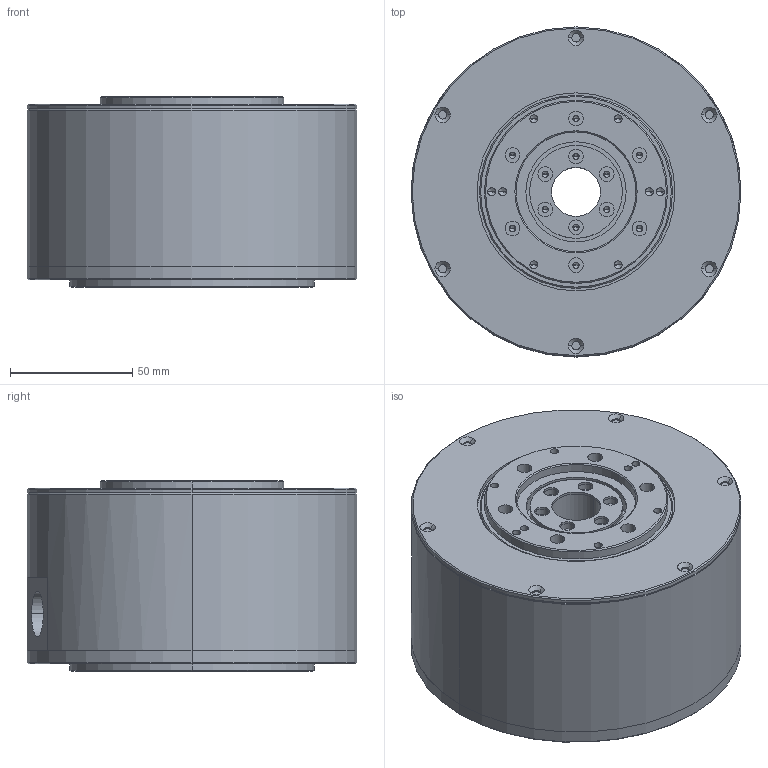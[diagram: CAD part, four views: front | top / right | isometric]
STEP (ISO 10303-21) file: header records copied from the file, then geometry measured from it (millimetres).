
FILE_DESCRIPTION((''),'2;1');
FILE_NAME('PM-DDB03D','2016-02-05T',('jb17719'),(''),'PRO/ENGINEER BY PARAMETRIC TECHNOLOGY CORPORATION, 2008070','PRO/ENGINEER BY PARAMETRIC TECHNOLOGY CORPORATION, 2008070','');
FILE_SCHEMA(('AUTOMOTIVE_DESIGN_CC2 { 1 2 10303 214 -1 1 5 2 }'));
Length unit declared in the file: millimetre
Products named in the file (7): __-____14_2_; M3__________4_2_; M3__________5; ______12; __-____13_2_; DB03D_ANY; PM-DDB03D
Assembly tree (6 placements, depth 3):
  PM-DDB03D
    DB03D_ANY
      __-____14_2_
      M3__________4_2_
      M3__________5
      ______12
      __-____13_2_
Bounding box: 135 x 135 x 78 mm (x, y, z)
Volume: 1004426.9 mm3; surface area: 127886.1 mm2
Topology: 5 solids, 5 shells, 344 faces, 812 edges, 476 vertices
Faces by surface type: cylinder 200, cone 98, plane 46
Entity records: 10022 total; most frequent: DIRECTION 1906, CARTESIAN_POINT 1582, ORIENTED_EDGE 1488, AXIS2_PLACEMENT_3D 800, EDGE_CURVE 744, VERTEX_POINT 476, EDGE_LOOP 472, CIRCLE 438
